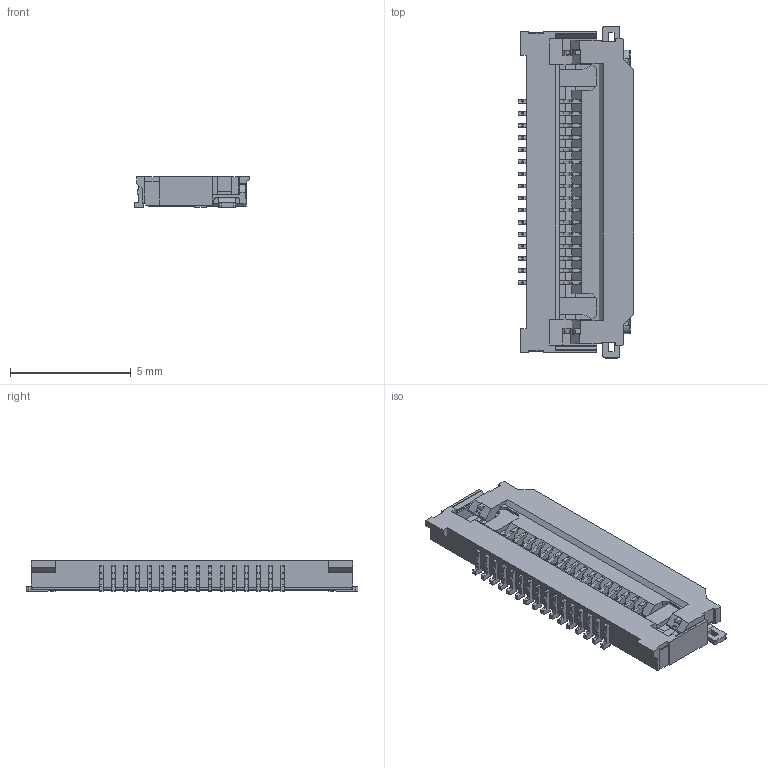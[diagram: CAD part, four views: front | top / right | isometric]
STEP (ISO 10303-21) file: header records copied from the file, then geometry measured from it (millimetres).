
FILE_DESCRIPTION (( 'STEP AP214' ), '1' );
FILE_NAME ('04_6811_616_000_846_+_Sdraw_161031.STEP', '2016-11-17T06:10:25', ( '' ), ( '' ), 'SwSTEP 2.0', 'SolidWorks 2014', '' );
FILE_SCHEMA (( 'AUTOMOTIVE_DESIGN' ));
Length unit declared in the file: millimetre
Products named in the file (1): 04_6811_616_000_846_+_Sdraw_161031
Bounding box: 4.79 x 13.73 x 1.28 mm (x, y, z)
Volume: 49.5 mm3; surface area: 265.8 mm2
Topology: 1 solids, 1 shells, 997 faces, 2973 edges, 1968 vertices
Faces by surface type: plane 662, cylinder 331, bspline 4
Entity records: 42578 total; most frequent: CARTESIAN_POINT 6437, ORIENTED_EDGE 5942, DIRECTION 5433, EDGE_CURVE 2971, VECTOR 2297, LINE 2297, VERTEX_POINT 1968, AXIS2_PLACEMENT_3D 1568
